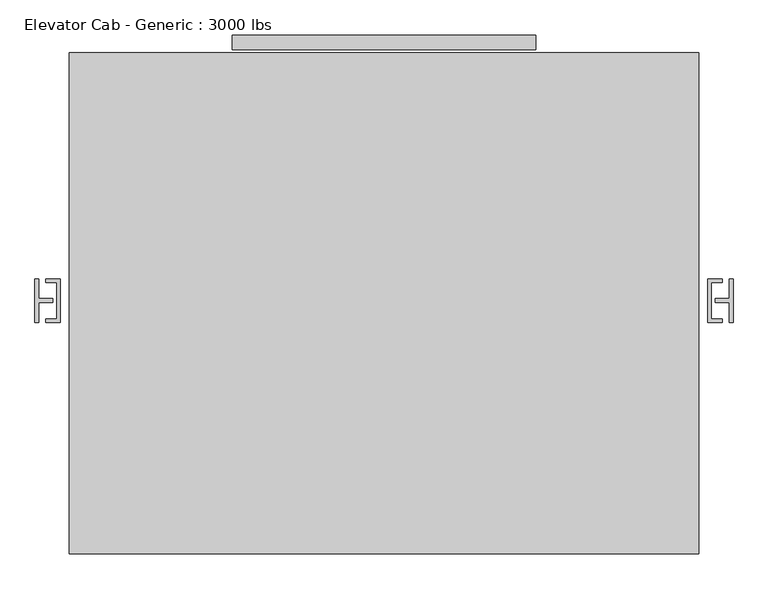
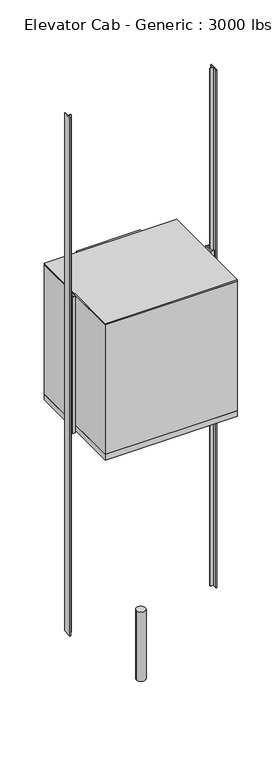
"""IFC4 building model written with IfcOpenShell, lengths in millimetres: proxy geometry, Elevator Cab - Generic : 3000 lbs."""

from ifc_helpers import new_model, si_unit, point, frame, frame_2d, origin, origin_with_axes, place, context, project, spatial, polyline, circle_curve, trimmed, segment, composite_curve, outline, extrude, source, transform, mapped, element, save


def elevator_cab_generic_3000_lbs_095eaf7b(model_context):
    return source(origin(), model_context, "Body", "SweptSolid", [
        extrude(outline(composite_curve([segment(trimmed(circle_curve(frame_2d((7.4469965, -139.3468263)), 76.2), [point((-68.7530035, -139.3468263))], [point((83.6469965, -139.3468263))], False, "CARTESIAN"), True, "CONTINUOUS"), segment(trimmed(circle_curve(frame_2d((7.4469965, -139.3468263)), 76.2), [point((83.6469965, -139.3468263))], [point((-68.7530035, -139.3468263))], False, "CARTESIAN"), True, "CONTINUOUS")], self_intersect=False)), frame((0.0, 0.0, -1219.2), z_axis=(0.0, 0.0, 1.0), x_axis=(1.0, 0.0, 0.0)), (0.0, 0.0, 1.0), 1219.2),
        extrude(outline(polyline([(540.8469965, 749.6531737), (-525.9530035, 749.6531737), (-525.9530035, 800.4531737), (540.8469965, 800.4531737), (540.8469965, 749.6531737)])), frame((0.0, 0.0, 3657.6), z_axis=(0.0, 0.0, 1.0), x_axis=(1.0, 0.0, 0.0)), (0.0, 0.0, 1.0), 2286.0),
        extrude(outline(polyline([(1112.3469965, -1021.9968263), (-1097.4530035, -1021.9968263), (-1097.4530035, 738.5406737), (1112.3469965, 738.5406737), (1112.3469965, -1021.9968263)])), frame((0.0, 0.0, 5943.6), z_axis=(0.0, 0.0, 1.0), x_axis=(1.0, 0.0, 0.0)), (0.0, 0.0, 1.0), 25.4),
        extrude(outline(polyline([(1074.2469965, -971.1968263), (1074.2469965, 705.2031737), (540.8469965, 705.2031737), (540.8469965, 738.5406737), (1112.3469965, 738.5406737), (1112.3469965, -1021.9968263), (-1097.4530035, -1021.9968263), (-1097.4530035, 738.5406737), (-525.9530035, 738.5406737), (-525.9530035, 705.2031737), (-1059.3530035, 705.2031737), (-1059.3530035, -971.1968263), (1074.2469965, -971.1968263)])), frame((0.0, 0.0, 3657.6), z_axis=(0.0, 0.0, 1.0), x_axis=(1.0, 0.0, 0.0)), (0.0, 0.0, 1.0), 2286.0),
        extrude(outline(polyline([(1112.3469965, -1021.9968263), (-1097.4530035, -1021.9968263), (-1097.4530035, 738.5406737), (1112.3469965, 738.5406737), (1112.3469965, -1021.9968263)])), frame((0.0, 0.0, 3556.0), z_axis=(0.0, 0.0, 1.0), x_axis=(1.0, 0.0, 0.0)), (0.0, 0.0, 1.0), 101.6),
        extrude(outline(polyline([(-1129.2030035, -209.1968263), (-1180.0030035, -209.1968263), (-1180.0030035, -196.4968263), (-1141.9030035, -196.4968263), (-1141.9030035, -69.4968263), (-1180.0030035, -69.4968263), (-1180.0030035, -56.7968263), (-1129.2030035, -56.7968263), (-1129.2030035, -209.1968263)])), frame((0.0, 0.0, 3556.0), z_axis=(0.0, 0.0, 1.0), x_axis=(1.0, 0.0, 0.0)), (0.0, 0.0, 1.0), 2413.0),
        extrude(outline(polyline([(1144.0969965, -209.1968263), (1144.0969965, -56.7968263), (1194.8969965, -56.7968263), (1194.8969965, -69.4968263), (1156.7969965, -69.4968263), (1156.7969965, -196.4968263), (1194.8969965, -196.4968263), (1194.8969965, -209.1968263), (1144.0969965, -209.1968263)])), frame((0.0, 0.0, 3556.0), z_axis=(0.0, 0.0, 1.0), x_axis=(1.0, 0.0, 0.0)), (0.0, 0.0, 1.0), 2413.0),
        extrude(outline(polyline([(-1205.4030035, -209.1968263), (-1218.1030035, -209.1968263), (-1218.1030035, -56.7968263), (-1205.4030035, -56.7968263), (-1205.4030035, -126.6468263), (-1154.6030035, -126.6468263), (-1154.6030035, -139.3468263), (-1205.4030035, -139.3468263), (-1205.4030035, -209.1968263)])), origin_with_axes(), (0.0, 0.0, 1.0), 9144.0),
        extrude(outline(polyline([(1220.2969965, -209.1968263), (1220.2969965, -139.3468263), (1169.4969965, -139.3468263), (1169.4969965, -126.6468263), (1220.2969965, -126.6468263), (1220.2969965, -56.7968263), (1232.9969965, -56.7968263), (1232.9969965, -209.1968263), (1220.2969965, -209.1968263)])), origin_with_axes(), (0.0, 0.0, 1.0), 9144.0),
    ])


if __name__ == "__main__":
    model = new_model("IFC4")
    model_context = context("Model", 3, world=origin())
    ifc_project = project(units=[si_unit("LENGTHUNIT", "METRE", prefix="MILLI")], contexts=[model_context])
    site = spatial("IfcSite", under=ifc_project)
    building = spatial("IfcBuilding", under=site)
    placement = place(None, origin())
    elevator_cab_generic_3000_lbs_shape = elevator_cab_generic_3000_lbs_095eaf7b(model_context)
    element("IfcBuildingElementProxy", 1, Name="Elevator Cab - Generic : 3000 lbs", ObjectType="Elevator Cab - Generic : 3000 lbs", at=placement, inside=building, context=model_context, shape_type="MappedRepresentation", body=[
        mapped(elevator_cab_generic_3000_lbs_shape, transform((0.0, 0.0, 0.0), x_axis=(1.0, 0.0, 0.0), y_axis=(0.0, 1.0, 0.0), z_axis=(0.0, 0.0, 1.0))),
    ])
    save(model, "model.ifc")
